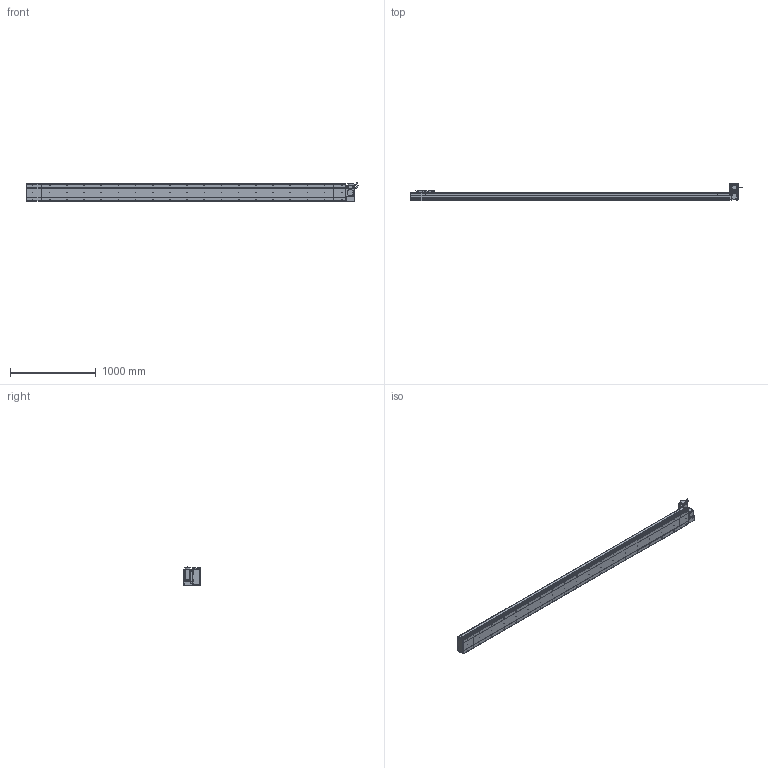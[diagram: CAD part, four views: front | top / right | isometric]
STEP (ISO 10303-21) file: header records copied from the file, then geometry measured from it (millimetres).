
FILE_DESCRIPTION (( 'STEP AP214' ), '1' );
FILE_NAME ('D20 CBH RT S3400.STEP', '2010-06-30T10:53:59', ( 'Conseil Régional Haute-Normandie' ), ( 'Conseil Régional Haute-Normandie' ), 'SwSTEP 2.0', 'SolidWorks 2010', '' );
FILE_SCHEMA (( 'AUTOMOTIVE_DESIGN' ));
Length unit declared in the file: millimetre
Products named in the file (31): Corp Tail D20 RT_Default; Conecteur2_Default; ecrou_Default; avant 90BLDC125A-640; Couvercle_Default; Chariot D20_Default; vis M5 L30_Default; Cache Support Moteur RT_Default; Conecteur_Default; vis M5 L15_Default; corps 90BLDC125A-640; Support moteur RT_Default; Moteur motionking 90BLDC125A-640; Glissiere_Default; vis M5 L47_Default; Tail D20_Default; Corp Tail D20_Default; Rondelle Cache D20 RT_Default; Corp D20 S3400_Default; Corp S3400_Default; Plaque de Bout Tail D20_Default; Couvercle S3400_Default; Plaque De Serrage D20_Default; codeur 90BLDC125-640; Head RT_Default; D20 CBH RT S3400; Couvercle RT_Default; Support Chariot D20_Default; Plaque de Bout Head D20 RT_Default; Plaque De Serrage D20 RT_Default
Assembly tree (68 placements, depth 4):
  D20 CBH RT S3400
    Head RT_Default
      Corp Tail D20 RT_Default
      vis M5 L47_Default  x4
      Couvercle RT_Default
      Rondelle Cache D20 RT_Default  x3
      vis M5 L30_Default  x4
      vis M5 L15_Default  x14
      Support moteur RT_Default
      Plaque De Serrage D20 RT_Default
      ecrou_Default  x4
      Cache Support Moteur RT_Default
      Plaque de Bout Head D20 RT_Default
      Moteur motionking 90BLDC125A-640
        corps 90BLDC125A-640
        avant 90BLDC125A-640
        codeur 90BLDC125-640
        Conecteur2_Default
        Conecteur_Default
    Tail D20_Default
      vis M5 L15_Default  x6
      Corp Tail D20_Default
      Plaque de Bout Tail D20_Default
      Plaque De Serrage D20_Default
      Couvercle_Default
    Chariot D20_Default
      vis M5 L15_Default  x8
      Chariot D20_Default
      Support Chariot D20_Default
      Glissiere_Default
    Corp D20 S3400_Default
      Couvercle S3400_Default
      Corp S3400_Default
Bounding box: 3864.45 x 206.5 x 229.7 mm (x, y, z)
Volume: 25769117.1 mm3; surface area: 4934933.6 mm2
Topology: 105 solids, 105 shells, 3880 faces, 9624 edges, 6250 vertices
Faces by surface type: plane 2149, bspline 806, cylinder 754, torus 95, cone 72, sphere 4
Entity records: 161102 total; most frequent: CARTESIAN_POINT 82586, ORIENTED_EDGE 15516, DIRECTION 11950, EDGE_CURVE 7758, VERTEX_POINT 5134, VECTOR 4978, LINE 4978, AXIS2_PLACEMENT_3D 3486
